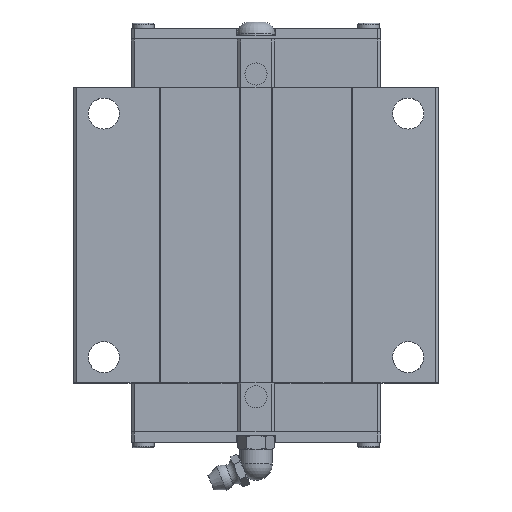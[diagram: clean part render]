
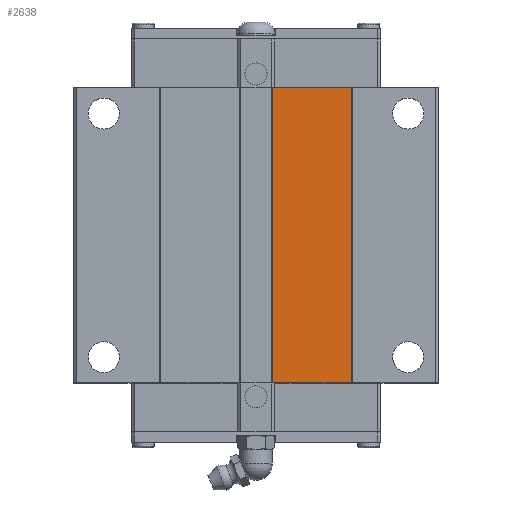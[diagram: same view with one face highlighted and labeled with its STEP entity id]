
A CAD part, top view. The second image highlights one B-rep face of the part: STEP entity #2638.
In plain terms, the highlighted planar face has unit normal (0, 0, 1).
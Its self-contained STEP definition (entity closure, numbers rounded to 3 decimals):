
#2034=VERTEX_POINT('',#5371);
#2526=VERTEX_POINT('',#5904);
#2638=ADVANCED_FACE('',(#6028),#6029,.F.);
#2782=VERTEX_POINT('',#6189);
#3610=EDGE_CURVE('',#2526,#2782,#7099,.T.);
#3794=EDGE_CURVE('',#2034,#2526,#7307,.T.);
#4060=EDGE_CURVE('',#2782,#4546,#7602,.T.);
#4546=VERTEX_POINT('',#8138);
#4802=EDGE_CURVE('',#2034,#4546,#8429,.T.);
#5371=CARTESIAN_POINT('',(5.5,116.6,59.5));
#5904=CARTESIAN_POINT('',(31.25,116.6,59.5));
#6028=FACE_OUTER_BOUND('',#10241,.T.);
#6029=PLANE('',#10242);
#6189=CARTESIAN_POINT('',(31.25,19.6,59.5));
#7099=LINE('',#11803,#11804);
#7307=LINE('',#12117,#12118);
#7602=LINE('',#12552,#12553);
#8138=CARTESIAN_POINT('',(5.5,19.6,59.5));
#8429=LINE('',#13811,#13812);
#10241=EDGE_LOOP('',(#15167,#15168,#15169,#15170));
#10242=AXIS2_PLACEMENT_3D('',#15171,#15172,#15173);
#11803=CARTESIAN_POINT('',(31.25,165.1,59.5));
#11804=VECTOR('',#16397,1.0);
#12117=CARTESIAN_POINT('',(15.625,116.6,59.5));
#12118=VECTOR('',#16644,1.0);
#12552=CARTESIAN_POINT('',(15.625,19.6,59.5));
#12553=VECTOR('',#17038,1.0);
#13811=CARTESIAN_POINT('',(5.5,140.85,59.5));
#13812=VECTOR('',#17948,1.0);
#15167=ORIENTED_EDGE('',*,*,#4802,.T.);
#15168=ORIENTED_EDGE('',*,*,#4060,.F.);
#15169=ORIENTED_EDGE('',*,*,#3610,.F.);
#15170=ORIENTED_EDGE('',*,*,#3794,.F.);
#15171=CARTESIAN_POINT('',(31.25,165.1,59.5));
#15172=DIRECTION('',(0.0,0.0,-1.0));
#15173=DIRECTION('',(1.0,0.0,0.0));
#16397=DIRECTION('',(0.0,-1.0,0.0));
#16644=DIRECTION('',(1.0,0.0,0.0));
#17038=DIRECTION('',(-1.0,-0.0,-0.0));
#17948=DIRECTION('',(0.0,-1.0,0.0));
